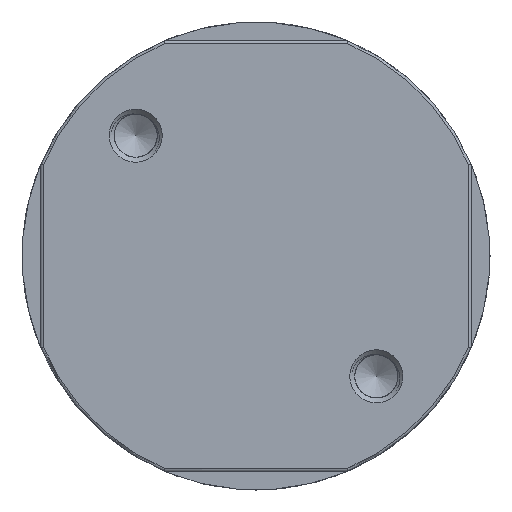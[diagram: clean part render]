
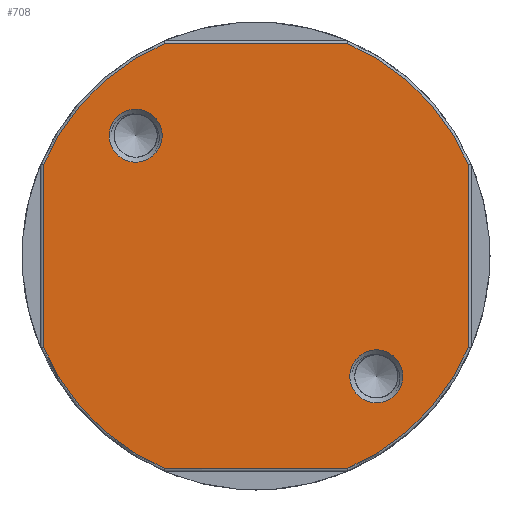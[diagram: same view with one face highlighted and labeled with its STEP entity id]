
A CAD part, front view. The second image highlights one B-rep face of the part: STEP entity #708.
In plain terms, the highlighted planar face has unit normal (0, -1, 0).
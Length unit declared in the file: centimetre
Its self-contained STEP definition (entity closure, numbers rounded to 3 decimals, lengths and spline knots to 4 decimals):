
#28=LINE('',#4090,#48);
#29=LINE('',#4094,#49);
#30=LINE('',#4098,#50);
#31=LINE('',#4101,#51);
#48=VECTOR('',#903,1.);
#49=VECTOR('',#906,1.);
#50=VECTOR('',#909,1.);
#51=VECTOR('',#912,1.);
#69=FACE_BOUND('',#194,.T.);
#70=FACE_BOUND('',#195,.T.);
#136=FACE_OUTER_BOUND('',#193,.T.);
#193=EDGE_LOOP('',(#540,#541,#542,#543,#544,#545,#546,#547));
#194=EDGE_LOOP('',(#548));
#195=EDGE_LOOP('',(#549));
#297=CIRCLE('',#774,0.25);
#298=CIRCLE('',#776,2.175);
#299=CIRCLE('',#777,2.175);
#300=CIRCLE('',#778,2.175);
#301=CIRCLE('',#779,2.175);
#302=CIRCLE('',#780,0.25);
#349=VERTEX_POINT('',#4083);
#350=VERTEX_POINT('',#4086);
#351=VERTEX_POINT('',#4087);
#352=VERTEX_POINT('',#4089);
#353=VERTEX_POINT('',#4091);
#354=VERTEX_POINT('',#4093);
#355=VERTEX_POINT('',#4095);
#356=VERTEX_POINT('',#4097);
#357=VERTEX_POINT('',#4099);
#358=VERTEX_POINT('',#4102);
#425=EDGE_CURVE('',#349,#349,#297,.T.);
#426=EDGE_CURVE('',#350,#351,#298,.T.);
#427=EDGE_CURVE('',#352,#350,#28,.T.);
#428=EDGE_CURVE('',#353,#352,#299,.T.);
#429=EDGE_CURVE('',#354,#353,#29,.T.);
#430=EDGE_CURVE('',#355,#354,#300,.T.);
#431=EDGE_CURVE('',#356,#355,#30,.T.);
#432=EDGE_CURVE('',#357,#356,#301,.T.);
#433=EDGE_CURVE('',#351,#357,#31,.T.);
#434=EDGE_CURVE('',#358,#358,#302,.T.);
#540=ORIENTED_EDGE('',*,*,#426,.F.);
#541=ORIENTED_EDGE('',*,*,#427,.F.);
#542=ORIENTED_EDGE('',*,*,#428,.F.);
#543=ORIENTED_EDGE('',*,*,#429,.F.);
#544=ORIENTED_EDGE('',*,*,#430,.F.);
#545=ORIENTED_EDGE('',*,*,#431,.F.);
#546=ORIENTED_EDGE('',*,*,#432,.F.);
#547=ORIENTED_EDGE('',*,*,#433,.F.);
#548=ORIENTED_EDGE('',*,*,#434,.F.);
#549=ORIENTED_EDGE('',*,*,#425,.F.);
#677=PLANE('',#775);
#708=ADVANCED_FACE('',(#136,#69,#70),#677,.F.);
#774=AXIS2_PLACEMENT_3D('',#4084,#897,#898);
#775=AXIS2_PLACEMENT_3D('',#4085,#899,#900);
#776=AXIS2_PLACEMENT_3D('',#4088,#901,#902);
#777=AXIS2_PLACEMENT_3D('',#4092,#904,#905);
#778=AXIS2_PLACEMENT_3D('',#4096,#907,#908);
#779=AXIS2_PLACEMENT_3D('',#4100,#910,#911);
#780=AXIS2_PLACEMENT_3D('',#4103,#913,#914);
#897=DIRECTION('center_axis',(0.,-1.,0.));
#898=DIRECTION('ref_axis',(0.,0.,1.));
#899=DIRECTION('center_axis',(0.,1.,0.));
#900=DIRECTION('ref_axis',(1.,0.,0.));
#901=DIRECTION('center_axis',(0.,1.,0.));
#902=DIRECTION('ref_axis',(0.707,0.,-0.707));
#903=DIRECTION('',(0.,0.,-1.));
#904=DIRECTION('center_axis',(0.,1.,0.));
#905=DIRECTION('ref_axis',(0.707,0.,0.707));
#906=DIRECTION('',(1.,0.,0.));
#907=DIRECTION('center_axis',(0.,1.,0.));
#908=DIRECTION('ref_axis',(-0.707,0.,0.707));
#909=DIRECTION('',(0.,0.,1.));
#910=DIRECTION('center_axis',(0.,1.,0.));
#911=DIRECTION('ref_axis',(-0.707,0.,-0.707));
#912=DIRECTION('',(-1.,0.,0.));
#913=DIRECTION('center_axis',(0.,-1.,0.));
#914=DIRECTION('ref_axis',(0.,0.,1.));
#4083=CARTESIAN_POINT('',(-1.1314,0.,0.8814));
#4084=CARTESIAN_POINT('Origin',(-1.1314,0.,1.1314));
#4085=CARTESIAN_POINT('Origin',(0.,0.,0.));
#4086=CARTESIAN_POINT('',(2.,0.,-0.8548));
#4087=CARTESIAN_POINT('',(0.8548,0.,-2.));
#4088=CARTESIAN_POINT('Origin',(0.,0.,0.));
#4089=CARTESIAN_POINT('',(2.,0.,0.8548));
#4090=CARTESIAN_POINT('',(2.,0.,-1.));
#4091=CARTESIAN_POINT('',(0.8548,0.,2.));
#4092=CARTESIAN_POINT('Origin',(0.,0.,0.));
#4093=CARTESIAN_POINT('',(-0.8548,0.,2.));
#4094=CARTESIAN_POINT('',(1.,0.,2.));
#4095=CARTESIAN_POINT('',(-2.,0.,0.8548));
#4096=CARTESIAN_POINT('Origin',(0.,0.,0.));
#4097=CARTESIAN_POINT('',(-2.,0.,-0.8548));
#4098=CARTESIAN_POINT('',(-2.,0.,1.));
#4099=CARTESIAN_POINT('',(-0.8548,0.,-2.));
#4100=CARTESIAN_POINT('Origin',(0.,0.,0.));
#4101=CARTESIAN_POINT('',(-1.,0.,-2.));
#4102=CARTESIAN_POINT('',(1.1314,0.,-1.3814));
#4103=CARTESIAN_POINT('Origin',(1.1314,0.,-1.1314));
